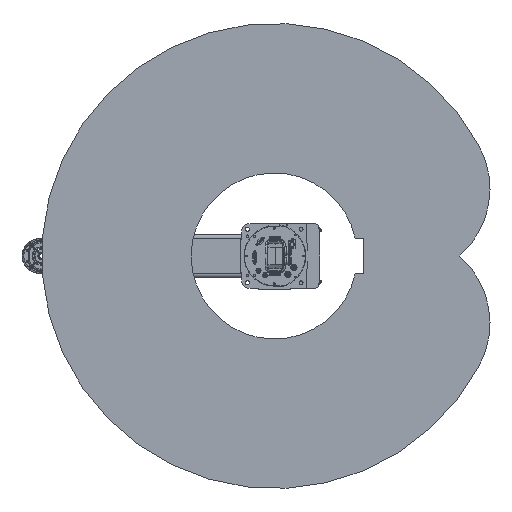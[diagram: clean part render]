
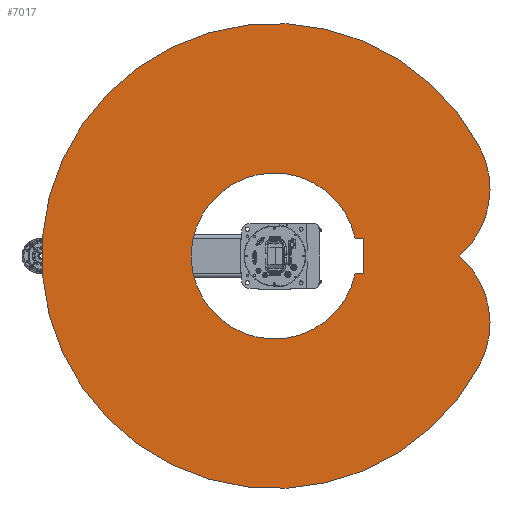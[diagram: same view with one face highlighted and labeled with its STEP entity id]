
A CAD part, front view. The second image highlights one B-rep face of the part: STEP entity #7017.
In plain terms, the highlighted planar face has unit normal (0, -1, 0).
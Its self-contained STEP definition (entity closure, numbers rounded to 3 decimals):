
#7017 = ADVANCED_FACE( '', ( #15449, #15450 ), #15451, .F. );
#15449 = FACE_OUTER_BOUND( '', #25498, .T. );
#15450 = FACE_BOUND( '', #25499, .T. );
#15451 = PLANE( '', #25500 );
#25498 = EDGE_LOOP( '', ( #45152, #45153, #45154 ) );
#25499 = EDGE_LOOP( '', ( #45155, #45156, #45157, #45158 ) );
#25500 = AXIS2_PLACEMENT_3D( '', #45159, #45160, #45161 );
#45152 = ORIENTED_EDGE( '', *, *, #57423, .F. );
#45153 = ORIENTED_EDGE( '', *, *, #58858, .F. );
#45154 = ORIENTED_EDGE( '', *, *, #55754, .F. );
#45155 = ORIENTED_EDGE( '', *, *, #51752, .T. );
#45156 = ORIENTED_EDGE( '', *, *, #57162, .T. );
#45157 = ORIENTED_EDGE( '', *, *, #51622, .T. );
#45158 = ORIENTED_EDGE( '', *, *, #58859, .T. );
#45159 = CARTESIAN_POINT( '', ( 93.894, 0., 176.59 ) );
#45160 = DIRECTION( '', ( 0., 1., 0. ) );
#45161 = DIRECTION( '', ( 0., 0., 1. ) );
#51622 = EDGE_CURVE( '', #60713, #60714, #60715, .T. );
#51752 = EDGE_CURVE( '', #60938, #60936, #60939, .T. );
#55754 = EDGE_CURVE( '', #67523, #67524, #67525, .T. );
#57162 = EDGE_CURVE( '', #60936, #60713, #69566, .T. );
#57423 = EDGE_CURVE( '', #69908, #67523, #69909, .T. );
#58858 = EDGE_CURVE( '', #67524, #69908, #71745, .T. );
#58859 = EDGE_CURVE( '', #60714, #60938, #71746, .T. );
#60713 = VERTEX_POINT( '', #74246 );
#60714 = VERTEX_POINT( '', #74247 );
#60715 = LINE( '', #74248, #74249 );
#60936 = VERTEX_POINT( '', #74534 );
#60938 = VERTEX_POINT( '', #74537 );
#60939 = LINE( '', #74538, #74539 );
#67523 = VERTEX_POINT( '', #86911 );
#67524 = VERTEX_POINT( '', #86912 );
#67525 = CIRCLE( '', #86913, 650. );
#69566 = LINE( '', #90106, #90107 );
#69908 = VERTEX_POINT( '', #90746 );
#69909 = CIRCLE( '', #90747, 250. );
#71745 = CIRCLE( '', #93664, 250. );
#71746 = CIRCLE( '', #93665, 232. );
#74246 = CARTESIAN_POINT( '', ( 50., 0., 250. ) );
#74247 = CARTESIAN_POINT( '', ( 50., 0., 226.548 ) );
#74248 = CARTESIAN_POINT( '', ( 50., 0., 250. ) );
#74249 = VECTOR( '', #95966, 1000. );
#74534 = CARTESIAN_POINT( '', ( -50., 0., 250. ) );
#74537 = CARTESIAN_POINT( '', ( -50., 0., 226.548 ) );
#74538 = CARTESIAN_POINT( '', ( -50., 0., 0. ) );
#74539 = VECTOR( '', #96145, 1000. );
#86911 = CARTESIAN_POINT( '', ( 305.157, 0., 573.916 ) );
#86912 = CARTESIAN_POINT( '', ( -305.157, 0., 573.916 ) );
#86913 = AXIS2_PLACEMENT_3D( '', #100852, #100853, #100854 );
#90106 = CARTESIAN_POINT( '', ( -50., 0., 250. ) );
#90107 = VECTOR( '', #102602, 1000. );
#90746 = CARTESIAN_POINT( '', ( 0., 0., 518.211 ) );
#90747 = AXIS2_PLACEMENT_3D( '', #102868, #102869, #102870 );
#93664 = AXIS2_PLACEMENT_3D( '', #104348, #104349, #104350 );
#93665 = AXIS2_PLACEMENT_3D( '', #104351, #104352, #104353 );
#95966 = DIRECTION( '', ( 0., 0., -1. ) );
#96145 = DIRECTION( '', ( 0., 0., 1. ) );
#100852 = CARTESIAN_POINT( '', ( 0., 0., 0. ) );
#100853 = DIRECTION( '', ( 0., 1., 0. ) );
#100854 = DIRECTION( '', ( 1., 0., 0. ) );
#102602 = DIRECTION( '', ( 1., 0., 0. ) );
#102868 = CARTESIAN_POINT( '', ( 187.789, 0., 353.179 ) );
#102869 = DIRECTION( '', ( 0., 1., 0. ) );
#102870 = DIRECTION( '', ( 1., 0., 0. ) );
#104348 = CARTESIAN_POINT( '', ( -187.789, 0., 353.179 ) );
#104349 = DIRECTION( '', ( 0., 1., 0. ) );
#104350 = DIRECTION( '', ( 1., 0., 0. ) );
#104351 = CARTESIAN_POINT( '', ( 0., 0., 0. ) );
#104352 = DIRECTION( '', ( 0., 1., 0. ) );
#104353 = DIRECTION( '', ( 1., 0., 0. ) );
